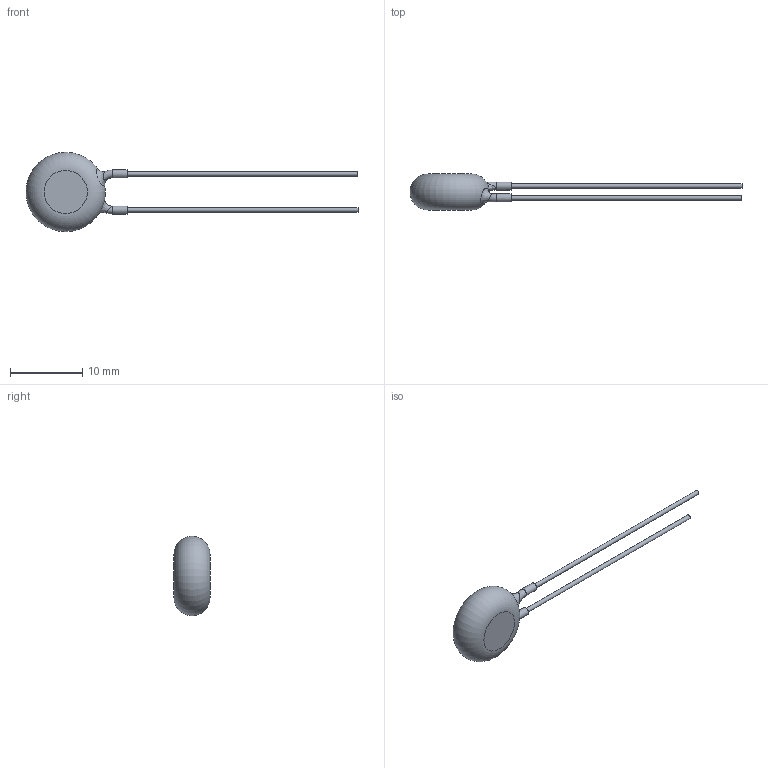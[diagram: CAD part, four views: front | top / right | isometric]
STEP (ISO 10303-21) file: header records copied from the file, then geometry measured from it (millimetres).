
FILE_DESCRIPTION((''),'2;1');
FILE_NAME('I:\Marketing\M6t1\3D-Models\Zchng-Werk-3\Upload for homepage\BCC\AY2\Y5U-5mm\AY2332K41Y5US63L5\AY2332K41Y5US63L5.stp','2015-09-09T08:31:48',(''),(''),'Autodesk Inventor 2013','Autodesk Inventor 2013','');
FILE_SCHEMA(('AUTOMOTIVE_DESIGN { 1 0 10303 214 1 1 1 1 }'));
Length unit declared in the file: centimetre
Products named in the file (1): AY2332K41Y5US63L5
Bounding box: 46 x 5 x 11 mm (x, y, z)
Volume: 418 mm3; surface area: 428.1 mm2
Topology: 1 solids, 1 shells, 15 faces, 27 edges, 18 vertices
Faces by surface type: plane 6, cylinder 4, torus 3, bspline 2
Full cylindrical faces by diameter (mm): 0.6 x2, 1.1 x2
Entity records: 665 total; most frequent: CARTESIAN_POINT 368, DIRECTION 52, ORIENTED_EDGE 32, AXIS2_PLACEMENT_3D 26, EDGE_LOOP 26, EDGE_CURVE 16, STYLED_ITEM 16, FACE_OUTER_BOUND 15
